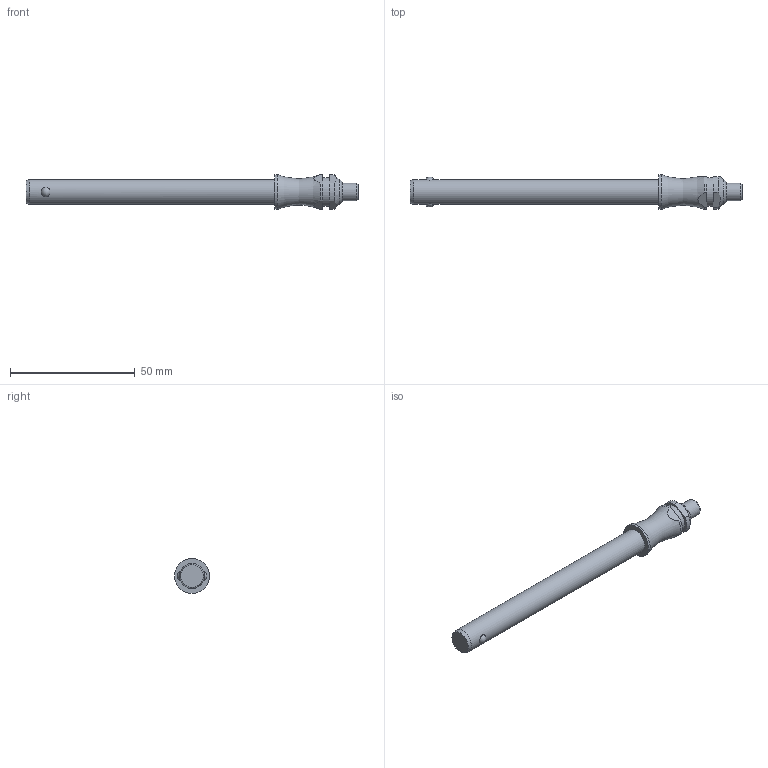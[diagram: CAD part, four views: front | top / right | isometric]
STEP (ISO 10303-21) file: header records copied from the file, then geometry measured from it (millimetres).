
FILE_DESCRIPTION( ( 'STEP AP203' ), '1' );
FILE_NAME( 'C:/Temp/Ganter_Step_05_03_2020/data/3_1/gn113_3/Stainless Steel-Ball lock pin GN 113.3-10-90 (deactivated).stp', '2020-03-12T08:18:37', ( 'License CC BY-ND 4.0' ), ( 'CADENAS' ), ' ', 'PARTsolutions', ' ' );
FILE_SCHEMA( ( 'CONFIG_CONTROL_DESIGN' ) );
Length unit declared in the file: millimetre
Products named in the file (1): _Stainless Steel-Ball lock pin GN 113.3-10-90 (deactivated)
Bounding box: 132.9 x 14 x 14 mm (x, y, z)
Volume: 11048 mm3; surface area: 4588 mm2
Topology: 1 solids, 1 shells, 28 faces, 60 edges, 39 vertices
Faces by surface type: plane 11, cylinder 10, cone 3, torus 2, sphere 2
Full cylindrical faces by diameter (mm): 7 x1, 10 x1, 11.6 x1, 14 x1
Entity records: 940 total; most frequent: CARTESIAN_POINT 327, DIRECTION 122, ORIENTED_EDGE 98, AXIS2_PLACEMENT_3D 52, EDGE_CURVE 49, EDGE_LOOP 42, VERTEX_POINT 37, FACE_OUTER_BOUND 34
